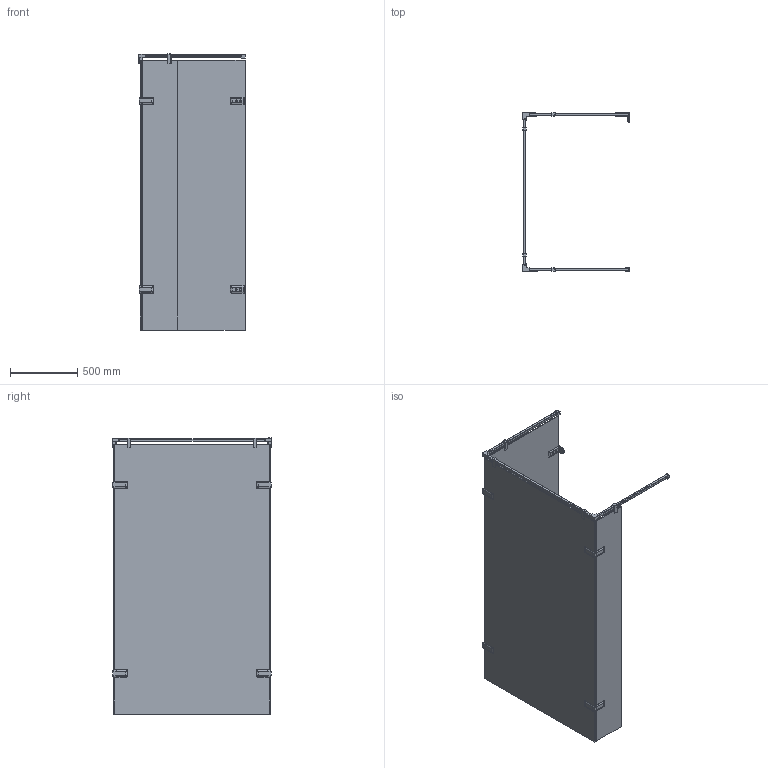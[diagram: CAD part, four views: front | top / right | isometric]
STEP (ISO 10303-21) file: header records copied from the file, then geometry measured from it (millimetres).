
FILE_DESCRIPTION(/* description */ (''),/* implementation_level */ '2;1');
FILE_NAME(/* name */ 'D:\13\GLASS LINE\GLASS LINE GK-883B\GLASS LINE GK-883B левая модель\GLASS LINE GK-883B ЛЕВАЯ-3D.stp',/* time_stamp */ '2022-02-12T17:36:11+03:00',/* author */ ('User'),/* organization */ (''),/* preprocessor_version */ 'ST-DEVELOPER v15.2',/* originating_system */ 'Autodesk Inventor 2014',/* authorisation */ '');
FILE_SCHEMA (('CONFIG_CONTROL_DESIGN'));
Length unit declared in the file: millimetre
Products named in the file (1): GLASS LINE GK-883B ЛЕВАЯ-3D
Bounding box: 791.75 x 1182 x 2049 mm (x, y, z)
Volume: 37051432.2 mm3; surface area: 9277989.5 mm2
Topology: 3 solids, 3 shells, 621 faces, 1561 edges, 894 vertices
Faces by surface type: plane 243, cylinder 214, sphere 64, bspline 60, torus 38, cone 2
Full cylindrical faces by diameter (mm): 40 x2
Entity records: 21814 total; most frequent: CARTESIAN_POINT 6943, DIRECTION 2949, ORIENTED_EDGE 2902, EDGE_CURVE 1451, AXIS2_PLACEMENT_3D 1044, VERTEX_POINT 894, LINE 861, VECTOR 861
